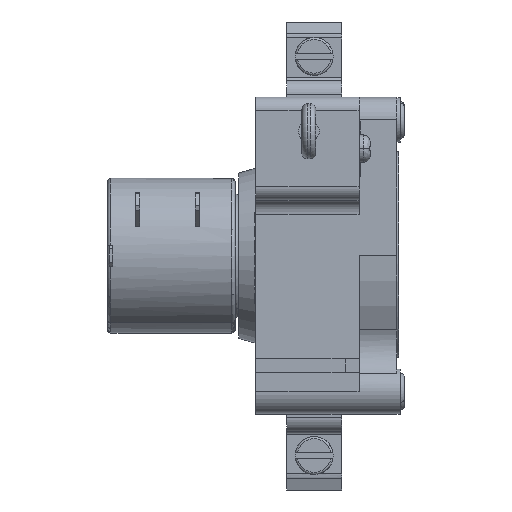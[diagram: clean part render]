
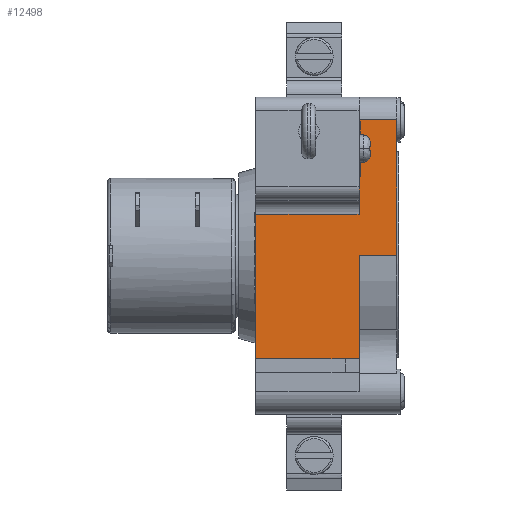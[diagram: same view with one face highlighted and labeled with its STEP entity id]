
A CAD part, top view. The second image highlights one B-rep face of the part: STEP entity #12498.
In plain terms, the highlighted planar face has unit normal (0, 0, 1).
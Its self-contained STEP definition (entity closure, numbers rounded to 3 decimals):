
#104=DIRECTION('',(0.,-1.,0.));
#105=VECTOR('',#104,20.999);
#106=CARTESIAN_POINT('',(-36.2,6.,23.));
#107=LINE('',#106,#105);
#772=DIRECTION('',(0.,1.,0.));
#773=VECTOR('',#772,19.75);
#774=CARTESIAN_POINT('',(-15.7,0.,23.));
#775=LINE('',#774,#773);
#1044=DIRECTION('',(0.,1.,0.));
#1045=VECTOR('',#1044,14.997);
#1046=CARTESIAN_POINT('',(-21.2,-14.997,23.));
#1047=LINE('',#1046,#1045);
#1062=DIRECTION('',(-1.,0.,0.));
#1063=VECTOR('',#1062,15.);
#1064=CARTESIAN_POINT('',(-21.2,-14.997,23.));
#1065=LINE('',#1064,#1063);
#1066=DIRECTION('',(-1.,0.,0.));
#1067=VECTOR('',#1066,2.);
#1068=CARTESIAN_POINT('',(-21.2,6.,23.));
#1069=LINE('',#1068,#1067);
#1070=DIRECTION('',(-1.,0.,0.));
#1071=VECTOR('',#1070,13.);
#1072=CARTESIAN_POINT('',(-23.2,6.,23.));
#1073=LINE('',#1072,#1071);
#2649=DIRECTION('',(-1.,0.,0.));
#2650=VECTOR('',#2649,5.5);
#2651=CARTESIAN_POINT('',(-15.7,19.75,23.));
#2652=LINE('',#2651,#2650);
#2657=DIRECTION('',(0.,-1.,0.));
#2658=VECTOR('',#2657,13.75);
#2659=CARTESIAN_POINT('',(-21.2,19.75,23.));
#2660=LINE('',#2659,#2658);
#5340=DIRECTION('',(1.,0.,0.));
#5341=VECTOR('',#5340,5.5);
#5342=CARTESIAN_POINT('',(-21.2,0.,23.));
#5343=LINE('',#5342,#5341);
#9402=CARTESIAN_POINT('',(-21.2,-14.997,23.));
#9404=VERTEX_POINT('',#9402);
#9405=CARTESIAN_POINT('',(-21.2,0.,23.));
#9406=VERTEX_POINT('',#9405);
#9407=CARTESIAN_POINT('',(-21.2,19.75,23.));
#9408=CARTESIAN_POINT('',(-21.2,6.,23.));
#9409=VERTEX_POINT('',#9407);
#9410=VERTEX_POINT('',#9408);
#9411=CARTESIAN_POINT('',(-15.7,19.75,23.));
#9412=VERTEX_POINT('',#9411);
#9413=CARTESIAN_POINT('',(-15.7,0.,23.));
#9414=VERTEX_POINT('',#9413);
#10199=CARTESIAN_POINT('',(-23.2,6.,23.));
#10200=VERTEX_POINT('',#10199);
#10213=CARTESIAN_POINT('',(-36.2,6.,23.));
#10214=VERTEX_POINT('',#10213);
#10257=CARTESIAN_POINT('',(-36.2,-14.999,23.));
#10258=VERTEX_POINT('',#10257);
#12477=CARTESIAN_POINT('',(-23.2,-23.,23.));
#12478=DIRECTION('',(0.,0.,1.));
#12479=DIRECTION('',(0.,1.,0.));
#12480=AXIS2_PLACEMENT_3D('',#12477,#12478,#12479);
#12481=PLANE('',#12480);
#12482=ORIENTED_EDGE('',*,*,#12086,.T.);
#12483=ORIENTED_EDGE('',*,*,#11830,.F.);
#12485=ORIENTED_EDGE('',*,*,#12484,.F.);
#12487=ORIENTED_EDGE('',*,*,#12486,.F.);
#12489=ORIENTED_EDGE('',*,*,#12488,.F.);
#12491=ORIENTED_EDGE('',*,*,#12490,.F.);
#12492=ORIENTED_EDGE('',*,*,#12345,.F.);
#12494=ORIENTED_EDGE('',*,*,#12493,.F.);
#12495=ORIENTED_EDGE('',*,*,#12468,.F.);
#12496=EDGE_LOOP('',(#12482,#12483,#12485,#12487,#12489,#12491,#12492,#12494,
#12495));
#12497=FACE_OUTER_BOUND('',#12496,.F.);
#12498=ADVANCED_FACE('',(#12497),#12481,.T.);
#11830=EDGE_CURVE('',#10214,#10258,#107,.T.);
#12086=EDGE_CURVE('',#9404,#10258,#1065,.T.);
#12345=EDGE_CURVE('',#9414,#9412,#775,.T.);
#12468=EDGE_CURVE('',#9404,#9406,#1047,.T.);
#12484=EDGE_CURVE('',#10200,#10214,#1073,.T.);
#12486=EDGE_CURVE('',#9410,#10200,#1069,.T.);
#12488=EDGE_CURVE('',#9409,#9410,#2660,.T.);
#12490=EDGE_CURVE('',#9412,#9409,#2652,.T.);
#12493=EDGE_CURVE('',#9406,#9414,#5343,.T.);
